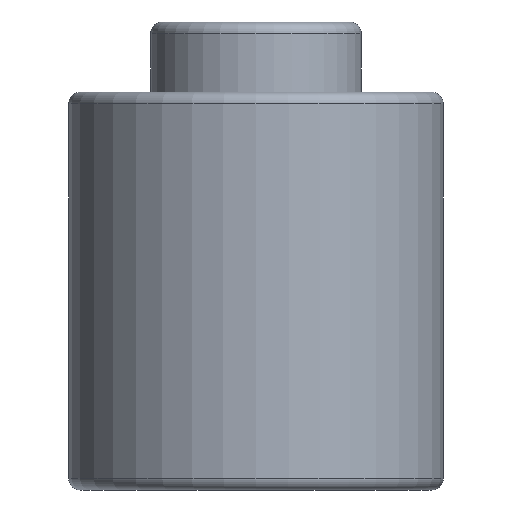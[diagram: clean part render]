
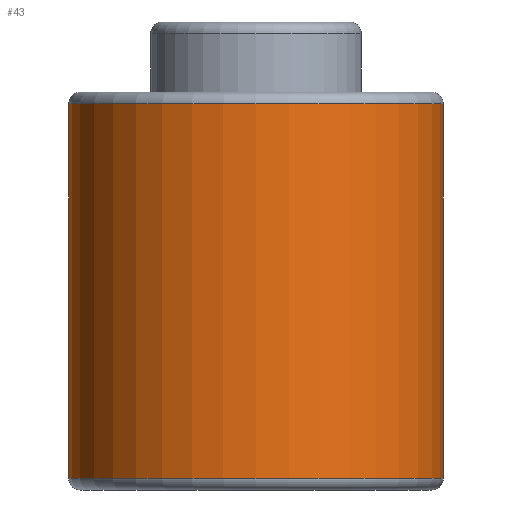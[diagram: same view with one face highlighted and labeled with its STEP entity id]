
A CAD part, front view. The second image highlights one B-rep face of the part: STEP entity #43.
In plain terms, the highlighted cylindrical face has radius 16 mm (diameter 32 mm), a full revolution.
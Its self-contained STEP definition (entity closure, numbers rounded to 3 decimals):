
#43=ADVANCED_FACE('',(#56,#57),#53,.T.);
#53=CYLINDRICAL_SURFACE('',#141,16.);
#56=FACE_BOUND('',#74,.T.);
#57=FACE_BOUND('',#75,.T.);
#74=EDGE_LOOP('',(#92));
#75=EDGE_LOOP('',(#93));
#92=ORIENTED_EDGE('',*,*,#120,.F.);
#93=ORIENTED_EDGE('',*,*,#121,.T.);
#110=VERTEX_POINT('',#200);
#111=VERTEX_POINT('',#202);
#120=EDGE_CURVE('',#110,#110,#129,.T.);
#121=EDGE_CURVE('',#111,#111,#130,.T.);
#129=CIRCLE('',#139,16.);
#130=CIRCLE('',#140,16.);
#139=AXIS2_PLACEMENT_3D('',#199,#160,#161);
#140=AXIS2_PLACEMENT_3D('',#201,#162,#163);
#141=AXIS2_PLACEMENT_3D('',#203,#164,#165);
#160=DIRECTION('',(0.,0.,-1.));
#161=DIRECTION('',(-1.,0.,0.));
#162=DIRECTION('',(0.,0.,-1.));
#163=DIRECTION('',(-1.,0.,0.));
#164=DIRECTION('',(0.,0.,-1.));
#165=DIRECTION('',(-1.,0.,0.));
#199=CARTESIAN_POINT('',(0.,0.,1.));
#200=CARTESIAN_POINT('',(-16.,0.,1.));
#201=CARTESIAN_POINT('',(0.,0.,33.));
#202=CARTESIAN_POINT('',(-16.,0.,33.));
#203=CARTESIAN_POINT('',(0.,0.,0.));
